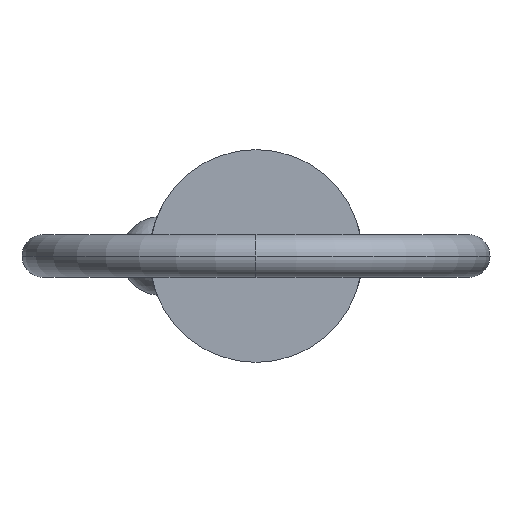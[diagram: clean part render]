
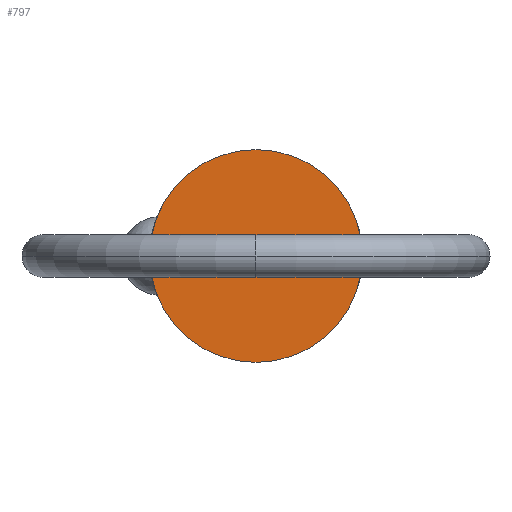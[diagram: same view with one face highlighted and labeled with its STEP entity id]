
A CAD part, left-side view. The second image highlights one B-rep face of the part: STEP entity #797.
In plain terms, the highlighted planar face has unit normal (-1, 0, 0).
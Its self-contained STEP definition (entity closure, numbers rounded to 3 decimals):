
#32 = CARTESIAN_POINT ( 'NONE',  ( 0., 0., 7.94 ) ) ;
#84 = AXIS2_PLACEMENT_3D ( 'NONE', #884, #582, #812 ) ;
#106 = EDGE_LOOP ( 'NONE', ( #246, #587 ) ) ;
#181 = CIRCLE ( 'NONE', #687, 7.94 ) ;
#236 = CARTESIAN_POINT ( 'NONE',  ( 0., 0., 0. ) ) ;
#246 = ORIENTED_EDGE ( 'NONE', *, *, #326, .F. ) ;
#303 = EDGE_CURVE ( 'NONE', #528, #612, #672, .T. ) ;
#313 = PLANE ( 'NONE',  #84 ) ;
#326 = EDGE_CURVE ( 'NONE', #612, #528, #181, .T. ) ;
#528 = VERTEX_POINT ( 'NONE', #32 ) ;
#558 = CARTESIAN_POINT ( 'NONE',  ( 0., 0., 0. ) ) ;
#564 = DIRECTION ( 'NONE',  ( 1., 0., 0. ) ) ;
#570 = AXIS2_PLACEMENT_3D ( 'NONE', #558, #601, #888 ) ;
#582 = DIRECTION ( 'NONE',  ( -1., 0., 0. ) ) ;
#587 = ORIENTED_EDGE ( 'NONE', *, *, #303, .F. ) ;
#601 = DIRECTION ( 'NONE',  ( 1., 0., 0. ) ) ;
#612 = VERTEX_POINT ( 'NONE', #636 ) ;
#635 = DIRECTION ( 'NONE',  ( 0., 0., -1. ) ) ;
#636 = CARTESIAN_POINT ( 'NONE',  ( 0., 0., -7.94 ) ) ;
#672 = CIRCLE ( 'NONE', #570, 7.94 ) ;
#687 = AXIS2_PLACEMENT_3D ( 'NONE', #236, #564, #635 ) ;
#797 = ADVANCED_FACE ( 'NONE', ( #876 ), #313, .T. ) ;
#812 = DIRECTION ( 'NONE',  ( 0., 0., 1. ) ) ;
#876 = FACE_OUTER_BOUND ( 'NONE', #106, .T. ) ;
#884 = CARTESIAN_POINT ( 'NONE',  ( 0., 0., 0. ) ) ;
#888 = DIRECTION ( 'NONE',  ( 0., 0., -1. ) ) ;
